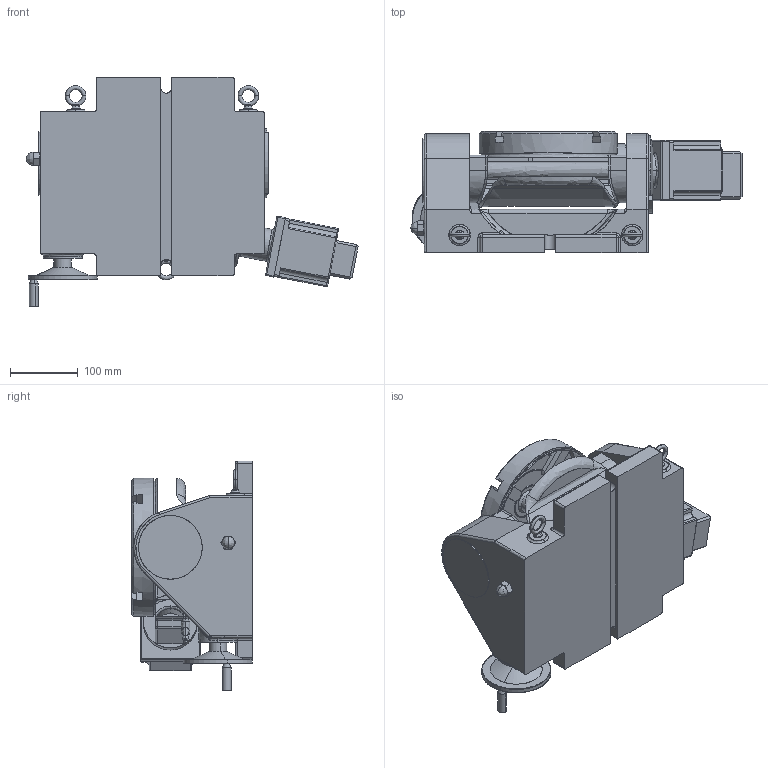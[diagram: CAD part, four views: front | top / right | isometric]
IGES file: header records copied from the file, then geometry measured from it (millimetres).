
Start section: SolidWorks IGES file using analytic representation for surfaces
Global section: file name: U:\SOLIDWORKS HOLDING FILE\WORKHOLDING\PARTS FOR WEBSITE\31848 8-INCH TILTING TABLE\31848 8 INCH TILTING ROTARY TABLE-HORZ.IGS; native system: SolidWorks 2012; preprocessor: SolidWorks 2012; author: rtooley; date: 150325.141147; units: inch
Bounding box: 488.42 x 177.8 x 338.33 mm (x, y, z)
Surface area: 612098.4 mm2 (no closed solid volume)
Topology: 0 solids, 0 shells, 611 faces, 9737 edges, 9706 vertices
Faces by surface type: revolution 328, bspline 283
